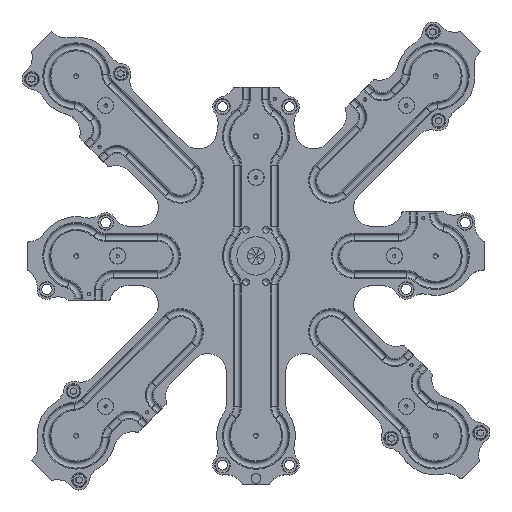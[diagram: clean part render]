
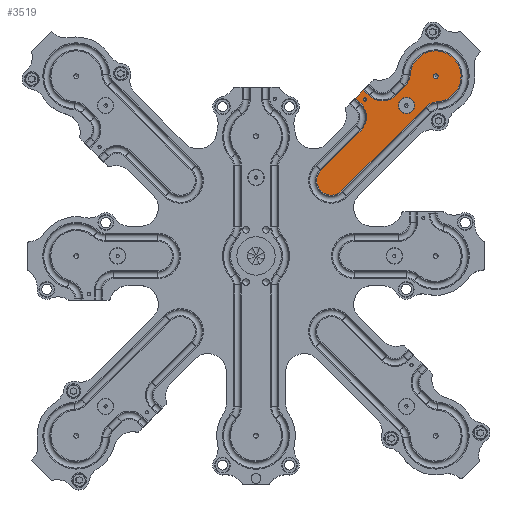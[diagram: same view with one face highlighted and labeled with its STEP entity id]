
A CAD part, top view. The second image highlights one B-rep face of the part: STEP entity #3519.
In plain terms, the highlighted planar face has unit normal (0, 0, 1).
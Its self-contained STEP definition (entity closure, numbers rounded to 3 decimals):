
#3519=ADVANCED_FACE('',(#7406,#7407,#7408,#7409),#7410,.F.);
#7406=FACE_BOUND('',#11434,.T.);
#7407=FACE_OUTER_BOUND('',#11435,.T.);
#7408=FACE_BOUND('',#11436,.T.);
#7409=FACE_BOUND('',#11437,.T.);
#7410=PLANE('',#11438);
#11434=EDGE_LOOP('',(#21294));
#11435=EDGE_LOOP('',(#21295,#21296,#21297,#21298,#21299,#21300,#21301,#21302,#21303,#21304,#21305,#21306));
#11436=EDGE_LOOP('',(#21307));
#11437=EDGE_LOOP('',(#21308));
#11438=AXIS2_PLACEMENT_3D('',#21309,#21310,#21311);
#21294=ORIENTED_EDGE('',*,*,#25687,.T.);
#21295=ORIENTED_EDGE('',*,*,#25092,.T.);
#21296=ORIENTED_EDGE('',*,*,#24289,.T.);
#21297=ORIENTED_EDGE('',*,*,#25827,.T.);
#21298=ORIENTED_EDGE('',*,*,#22260,.T.);
#21299=ORIENTED_EDGE('',*,*,#23231,.T.);
#21300=ORIENTED_EDGE('',*,*,#25782,.T.);
#21301=ORIENTED_EDGE('',*,*,#23096,.T.);
#21302=ORIENTED_EDGE('',*,*,#24712,.T.);
#21303=ORIENTED_EDGE('',*,*,#25128,.T.);
#21304=ORIENTED_EDGE('',*,*,#23377,.T.);
#21305=ORIENTED_EDGE('',*,*,#22668,.T.);
#21306=ORIENTED_EDGE('',*,*,#25526,.T.);
#21307=ORIENTED_EDGE('',*,*,#22263,.T.);
#21308=ORIENTED_EDGE('',*,*,#23361,.T.);
#21309=CARTESIAN_POINT('',(-182.7,182.7,0.0));
#21310=DIRECTION('',(-0.0,0.0,-1.0));
#21311=DIRECTION('',(-0.063,-0.998,0.0));
#22260=EDGE_CURVE('',#26476,#26481,#26483,.T.);
#22263=EDGE_CURVE('',#26487,#26487,#26488,.T.);
#22668=EDGE_CURVE('',#27182,#27187,#27189,.T.);
#23096=EDGE_CURVE('',#27878,#27883,#27885,.T.);
#23231=EDGE_CURVE('',#26481,#28108,#28110,.F.);
#23361=EDGE_CURVE('',#28323,#28323,#28324,.F.);
#23377=EDGE_CURVE('',#28344,#27182,#28348,.T.);
#24289=EDGE_CURVE('',#29757,#29761,#29763,.T.);
#24712=EDGE_CURVE('',#27883,#30352,#30354,.F.);
#25092=EDGE_CURVE('',#30846,#29757,#30847,.T.);
#25128=EDGE_CURVE('',#30352,#28344,#30889,.T.);
#25526=EDGE_CURVE('',#27187,#30846,#31388,.T.);
#25687=EDGE_CURVE('',#31571,#31571,#31572,.T.);
#25782=EDGE_CURVE('',#28108,#27878,#31670,.T.);
#25827=EDGE_CURVE('',#29761,#26476,#31715,.T.);
#26476=VERTEX_POINT('',#32531);
#26481=VERTEX_POINT('',#32538);
#26483=LINE('',#32541,#32542);
#26487=VERTEX_POINT('',#32546);
#26488=CIRCLE('',#32547,1.65);
#27182=VERTEX_POINT('',#33430);
#27187=VERTEX_POINT('',#33436);
#27189=CIRCLE('',#33439,19.091);
#27878=VERTEX_POINT('',#34315);
#27883=VERTEX_POINT('',#34321);
#27885=CIRCLE('',#34324,19.091);
#28108=VERTEX_POINT('',#34598);
#28110=CIRCLE('',#34601,14.909);
#28323=VERTEX_POINT('',#34879);
#28324=CIRCLE('',#34880,8.3);
#28344=VERTEX_POINT('',#34907);
#28348=LINE('',#34913,#34914);
#29757=VERTEX_POINT('',#36683);
#29761=VERTEX_POINT('',#36689);
#29763=LINE('',#36692,#36693);
#30352=VERTEX_POINT('',#37442);
#30354=CIRCLE('',#37445,25.909);
#30846=VERTEX_POINT('',#38102);
#30847=LINE('',#38103,#38104);
#30889=CIRCLE('',#38158,19.091);
#31388=LINE('',#38783,#38784);
#31571=VERTEX_POINT('',#39014);
#31572=CIRCLE('',#39015,2.5);
#31670=LINE('',#39132,#39133);
#31715=CIRCLE('',#39182,19.091);
#32531=CARTESIAN_POINT('',(106.78,127.865,0.));
#32538=CARTESIAN_POINT('',(66.091,87.176,0.));
#32541=CARTESIAN_POINT('',(-10.543,10.543,0.0));
#32542=VECTOR('',#39739,1.0);
#32546=CARTESIAN_POINT('',(112.552,159.469,0.));
#32547=AXIS2_PLACEMENT_3D('',#39743,#39744,#39745);
#33430=CARTESIAN_POINT('',(142.135,163.22,0.));
#33436=CARTESIAN_POINT('',(115.137,163.22,0.));
#33439=AXIS2_PLACEMENT_3D('',#40384,#40385,#40386);
#34315=CARTESIAN_POINT('',(172.398,151.313,0.));
#34321=CARTESIAN_POINT('',(184.541,156.856,0.));
#34324=AXIS2_PLACEMENT_3D('',#41041,#41042,#41043);
#34598=CARTESIAN_POINT('',(87.176,66.091,0.));
#34601=AXIS2_PLACEMENT_3D('',#41276,#41277,#41278);
#34879=CARTESIAN_POINT('',(161.302,153.002,0.));
#34880=AXIS2_PLACEMENT_3D('',#41449,#41450,#41451);
#34907=CARTESIAN_POINT('',(151.313,172.398,0.));
#34913=CARTESIAN_POINT('',(-10.543,10.543,0.0));
#34914=VECTOR('',#41467,1.0);
#36683=CARTESIAN_POINT('',(101.123,160.52,0.));
#36689=CARTESIAN_POINT('',(106.78,154.863,0.));
#36692=CARTESIAN_POINT('',(-51.879,313.521,0.0));
#36693=VECTOR('',#42820,1.0);
#37442=CARTESIAN_POINT('',(156.856,184.541,0.));
#37445=AXIS2_PLACEMENT_3D('',#43393,#43394,#43395);
#38102=CARTESIAN_POINT('',(109.48,168.877,0.));
#38103=CARTESIAN_POINT('',(120.858,180.255,0.));
#38104=VECTOR('',#43848,1.0);
#38158=AXIS2_PLACEMENT_3D('',#43891,#43892,#43893);
#38783=CARTESIAN_POINT('',(-43.521,321.879,0.0));
#38784=VECTOR('',#44455,1.0);
#39014=CARTESIAN_POINT('',(185.2,182.7,0.));
#39015=AXIS2_PLACEMENT_3D('',#44648,#44649,#44650);
#39132=CARTESIAN_POINT('',(10.543,-10.543,0.0));
#39133=VECTOR('',#44709,1.0);
#39182=AXIS2_PLACEMENT_3D('',#44726,#44727,#44728);
#39739=DIRECTION('',(-0.707,-0.707,0.0));
#39743=CARTESIAN_POINT('',(110.958,159.042,0.0));
#39744=DIRECTION('',(0.,0.,-1.0));
#39745=DIRECTION('',(0.966,0.259,0.));
#40384=CARTESIAN_POINT('',(128.636,176.719,0.));
#40385=DIRECTION('',(0.0,0.0,-1.0));
#40386=DIRECTION('',(-1.0,0.0,0.0));
#41041=CARTESIAN_POINT('',(185.897,137.814,0.));
#41042=DIRECTION('',(0.0,0.0,-1.0));
#41043=DIRECTION('',(-1.0,0.0,0.0));
#41276=CARTESIAN_POINT('',(76.634,76.634,0.));
#41277=DIRECTION('',(0.0,0.0,-1.0));
#41278=DIRECTION('',(-1.0,0.0,0.0));
#41449=CARTESIAN_POINT('',(153.002,153.002,0.0));
#41450=DIRECTION('',(0.,0.0,1.0));
#41451=DIRECTION('',(1.0,0.0,0.));
#41467=DIRECTION('',(-0.707,-0.707,0.0));
#42820=DIRECTION('',(0.707,-0.707,0.0));
#43393=CARTESIAN_POINT('',(182.7,182.7,0.));
#43394=DIRECTION('',(0.0,0.0,-1.0));
#43395=DIRECTION('',(-1.0,0.0,0.0));
#43848=DIRECTION('',(-0.707,-0.707,0.));
#43891=CARTESIAN_POINT('',(137.814,185.897,0.));
#43892=DIRECTION('',(0.0,0.0,-1.0));
#43893=DIRECTION('',(-1.0,0.0,0.0));
#44455=DIRECTION('',(-0.707,0.707,0.0));
#44648=CARTESIAN_POINT('',(182.7,182.7,0.0));
#44649=DIRECTION('',(0.,0.,-1.0));
#44650=DIRECTION('',(1.0,0.,0.));
#44709=DIRECTION('',(0.707,0.707,0.0));
#44726=CARTESIAN_POINT('',(93.281,141.364,0.));
#44727=DIRECTION('',(0.0,0.0,-1.0));
#44728=DIRECTION('',(-1.0,0.0,0.0));
